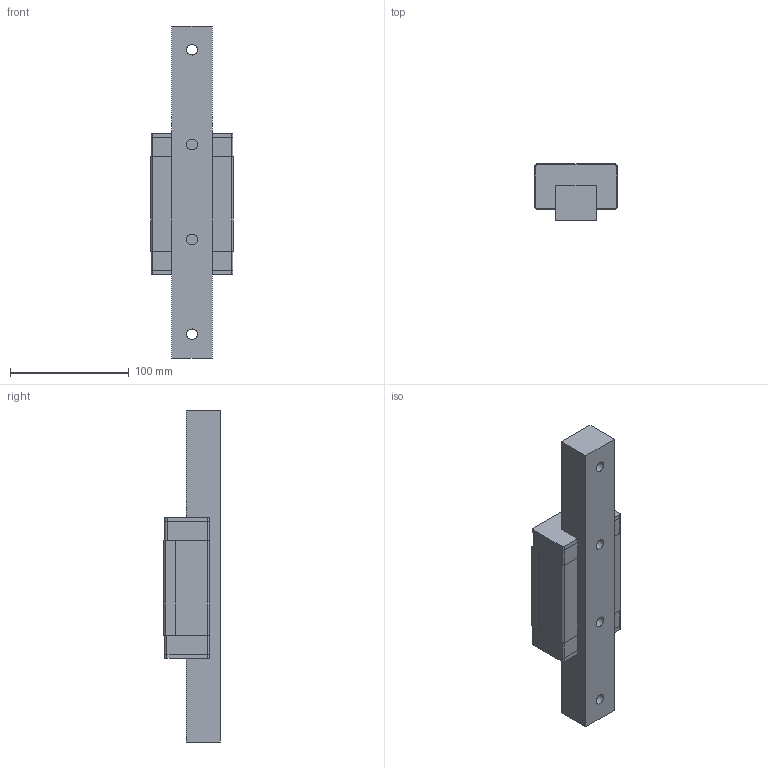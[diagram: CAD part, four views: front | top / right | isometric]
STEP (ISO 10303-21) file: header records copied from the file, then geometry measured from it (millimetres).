
FILE_DESCRIPTION((''),'2;1');
FILE_NAME('E:\PDF郪磁芞\DFS-B\DFS35B.STP','2018-01-31T12:46:05',(''),(''),'STEP Write','Mastercam V9 ... CNC Software, Inc.','');
FILE_SCHEMA(('CONFIG_CONTROL_DESIGN'));
Length unit declared in the file: millimetre
Bounding box: 70 x 48 x 280 mm (x, y, z)
Volume: 511877.5 mm3; surface area: 92904.5 mm2
Topology: 6 solids, 6 shells, 102 faces, 461 edges, 582 vertices
Faces by surface type: plane 74, cylinder 28
Full cylindrical faces by diameter (mm): 7.3 x4, 9 x4, 14 x4
Entity records: 4342 total; most frequent: CARTESIAN_POINT 964, DIRECTION 755, ORIENTED_EDGE 468, VECTOR 323, LINE 323, EDGE_CURVE 234, AXIS2_PLACEMENT_3D 216, TRIMMED_CURVE 203
